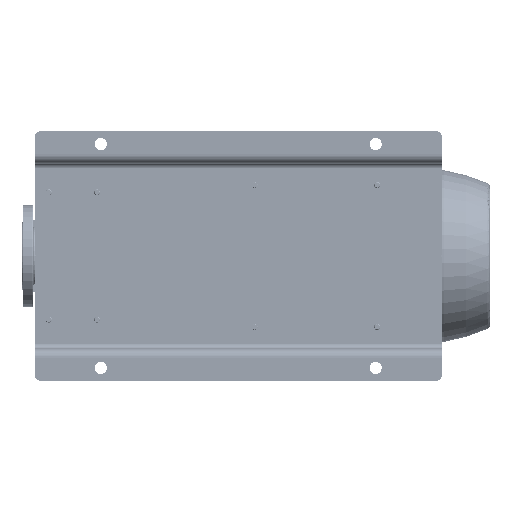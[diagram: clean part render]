
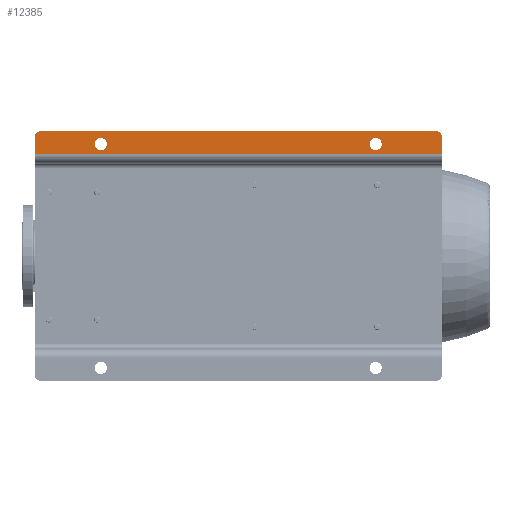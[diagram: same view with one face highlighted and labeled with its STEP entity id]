
A CAD part, front view. The second image highlights one B-rep face of the part: STEP entity #12385.
In plain terms, the highlighted planar face has unit normal (0, -1, 0).
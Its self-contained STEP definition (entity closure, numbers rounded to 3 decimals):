
#1649 = DIRECTION ( 'NONE',  ( 0., 0., -1. ) ) ;
#1736 = CARTESIAN_POINT ( 'NONE',  ( 490., 0., -10. ) ) ;
#5617 = AXIS2_PLACEMENT_3D ( 'NONE', #88084, #135402, #137619 ) ;
#8670 = CARTESIAN_POINT ( 'NONE',  ( 477., 0., -670. ) ) ;
#12385 = ADVANCED_FACE ( 'NONE', ( #86501, #186617, #15605 ), #18929, .T. ) ;
#13009 = EDGE_CURVE ( 'NONE', #65676, #210073, #28647, .T. ) ;
#15478 = EDGE_CURVE ( 'NONE', #197419, #155452, #186439, .T. ) ;
#15550 = DIRECTION ( 'NONE',  ( 0., 0., -1. ) ) ;
#15605 = FACE_OUTER_BOUND ( 'NONE', #86394, .T. ) ;
#16544 = ORIENTED_EDGE ( 'NONE', *, *, #27361, .F. ) ;
#18873 = CARTESIAN_POINT ( 'NONE',  ( 465., 0., -670. ) ) ;
#18929 = PLANE ( 'NONE',  #62642 ) ;
#22489 = VERTEX_POINT ( 'NONE', #124148 ) ;
#25382 = DIRECTION ( 'NONE',  ( 1., 0., 0. ) ) ;
#27361 = EDGE_CURVE ( 'NONE', #192639, #60771, #216306, .T. ) ;
#28173 = CARTESIAN_POINT ( 'NONE',  ( 445., 0., 0. ) ) ;
#28422 = DIRECTION ( 'NONE',  ( 1., 0., 0. ) ) ;
#28427 = AXIS2_PLACEMENT_3D ( 'NONE', #157575, #123807, #74273 ) ;
#28647 = LINE ( 'NONE', #145780, #109056 ) ;
#30778 = AXIS2_PLACEMENT_3D ( 'NONE', #155783, #100690, #1649 ) ;
#31002 = ORIENTED_EDGE ( 'NONE', *, *, #66534, .T. ) ;
#45610 = LINE ( 'NONE', #128933, #130086 ) ;
#48149 = CARTESIAN_POINT ( 'NONE',  ( 490., 0., -790. ) ) ;
#52618 = EDGE_CURVE ( 'NONE', #192639, #59542, #131937, .T. ) ;
#53776 = DIRECTION ( 'NONE',  ( 0., 1., 0. ) ) ;
#53833 = DIRECTION ( 'NONE',  ( 0., -1., 0. ) ) ;
#59542 = VERTEX_POINT ( 'NONE', #134087 ) ;
#60771 = VERTEX_POINT ( 'NONE', #162120 ) ;
#61347 = DIRECTION ( 'NONE',  ( 0., 0., 1. ) ) ;
#62642 = AXIS2_PLACEMENT_3D ( 'NONE', #152924, #53833, #206853 ) ;
#63332 = CARTESIAN_POINT ( 'NONE',  ( 427., 0., 0. ) ) ;
#65676 = VERTEX_POINT ( 'NONE', #48149 ) ;
#66534 = EDGE_CURVE ( 'NONE', #22489, #65676, #109846, .T. ) ;
#74273 = DIRECTION ( 'NONE',  ( 0., 0., -1. ) ) ;
#80897 = CIRCLE ( 'NONE', #145550, 12. ) ;
#86394 = EDGE_LOOP ( 'NONE', ( #16544, #88113, #152484, #31002, #161623, #147762 ) ) ;
#86501 = FACE_BOUND ( 'NONE', #163665, .T. ) ;
#88084 = CARTESIAN_POINT ( 'NONE',  ( 480., 0., -790. ) ) ;
#88113 = ORIENTED_EDGE ( 'NONE', *, *, #52618, .T. ) ;
#92116 = DIRECTION ( 'NONE',  ( 0., -1., 0. ) ) ;
#95969 = CARTESIAN_POINT ( 'NONE',  ( 445., 0., -800. ) ) ;
#98943 = CIRCLE ( 'NONE', #185163, 12. ) ;
#100690 = DIRECTION ( 'NONE',  ( 0., 1., 0. ) ) ;
#109056 = VECTOR ( 'NONE', #61347, 1000. ) ;
#109846 = CIRCLE ( 'NONE', #5617, 10. ) ;
#109974 = ORIENTED_EDGE ( 'NONE', *, *, #15478, .T. ) ;
#123807 = DIRECTION ( 'NONE',  ( 0., 1., 0. ) ) ;
#124148 = CARTESIAN_POINT ( 'NONE',  ( 480., 0., -800. ) ) ;
#125721 = VECTOR ( 'NONE', #179215, 1000. ) ;
#126962 = CARTESIAN_POINT ( 'NONE',  ( 480., 0., -10. ) ) ;
#128933 = CARTESIAN_POINT ( 'NONE',  ( 427., 0., -800. ) ) ;
#130086 = VECTOR ( 'NONE', #25382, 1000. ) ;
#130306 = DIRECTION ( 'NONE',  ( 0., 1., 0. ) ) ;
#131937 = LINE ( 'NONE', #95969, #125721 ) ;
#134087 = CARTESIAN_POINT ( 'NONE',  ( 445., 0., -800. ) ) ;
#135402 = DIRECTION ( 'NONE',  ( 0., -1., 0. ) ) ;
#137619 = DIRECTION ( 'NONE',  ( 0., 0., -1. ) ) ;
#145550 = AXIS2_PLACEMENT_3D ( 'NONE', #164071, #130306, #206671 ) ;
#145780 = CARTESIAN_POINT ( 'NONE',  ( 490., 0., -800. ) ) ;
#147762 = ORIENTED_EDGE ( 'NONE', *, *, #173278, .T. ) ;
#152484 = ORIENTED_EDGE ( 'NONE', *, *, #165054, .T. ) ;
#152924 = CARTESIAN_POINT ( 'NONE',  ( 427., 0., -800. ) ) ;
#154315 = EDGE_CURVE ( 'NONE', #217637, #168947, #185281, .T. ) ;
#155452 = VERTEX_POINT ( 'NONE', #209739 ) ;
#155783 = CARTESIAN_POINT ( 'NONE',  ( 465., 0., -670. ) ) ;
#157122 = CARTESIAN_POINT ( 'NONE',  ( 453., 0., -670. ) ) ;
#157575 = CARTESIAN_POINT ( 'NONE',  ( 465., 0., -130. ) ) ;
#161623 = ORIENTED_EDGE ( 'NONE', *, *, #13009, .T. ) ;
#161846 = DIRECTION ( 'NONE',  ( 0., 0., -1. ) ) ;
#162120 = CARTESIAN_POINT ( 'NONE',  ( 480., 0., 0. ) ) ;
#163665 = EDGE_LOOP ( 'NONE', ( #215772, #109974 ) ) ;
#164071 = CARTESIAN_POINT ( 'NONE',  ( 465., 0., -130. ) ) ;
#165054 = EDGE_CURVE ( 'NONE', #59542, #22489, #45610, .T. ) ;
#168947 = VERTEX_POINT ( 'NONE', #157122 ) ;
#169218 = ORIENTED_EDGE ( 'NONE', *, *, #179083, .T. ) ;
#169898 = EDGE_CURVE ( 'NONE', #155452, #197419, #80897, .T. ) ;
#171097 = CARTESIAN_POINT ( 'NONE',  ( 477., 0., -130. ) ) ;
#173278 = EDGE_CURVE ( 'NONE', #210073, #60771, #184075, .T. ) ;
#179083 = EDGE_CURVE ( 'NONE', #168947, #217637, #98943, .T. ) ;
#179215 = DIRECTION ( 'NONE',  ( 0., 0., -1. ) ) ;
#181231 = VECTOR ( 'NONE', #28422, 1000. ) ;
#184075 = CIRCLE ( 'NONE', #205782, 10. ) ;
#185163 = AXIS2_PLACEMENT_3D ( 'NONE', #18873, #53776, #15550 ) ;
#185281 = CIRCLE ( 'NONE', #30778, 12. ) ;
#186439 = CIRCLE ( 'NONE', #28427, 12. ) ;
#186617 = FACE_BOUND ( 'NONE', #218158, .T. ) ;
#192639 = VERTEX_POINT ( 'NONE', #28173 ) ;
#197419 = VERTEX_POINT ( 'NONE', #171097 ) ;
#205782 = AXIS2_PLACEMENT_3D ( 'NONE', #126962, #92116, #161846 ) ;
#206671 = DIRECTION ( 'NONE',  ( 0., 0., -1. ) ) ;
#206853 = DIRECTION ( 'NONE',  ( 0., 0., -1. ) ) ;
#209739 = CARTESIAN_POINT ( 'NONE',  ( 453., 0., -130. ) ) ;
#209818 = ORIENTED_EDGE ( 'NONE', *, *, #154315, .T. ) ;
#210073 = VERTEX_POINT ( 'NONE', #1736 ) ;
#215772 = ORIENTED_EDGE ( 'NONE', *, *, #169898, .T. ) ;
#216306 = LINE ( 'NONE', #63332, #181231 ) ;
#217637 = VERTEX_POINT ( 'NONE', #8670 ) ;
#218158 = EDGE_LOOP ( 'NONE', ( #169218, #209818 ) ) ;
